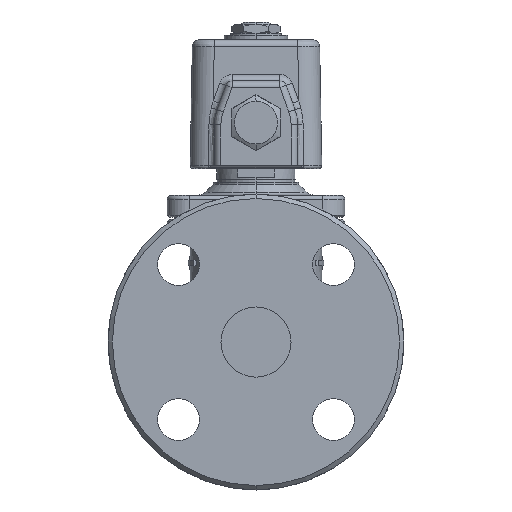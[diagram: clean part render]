
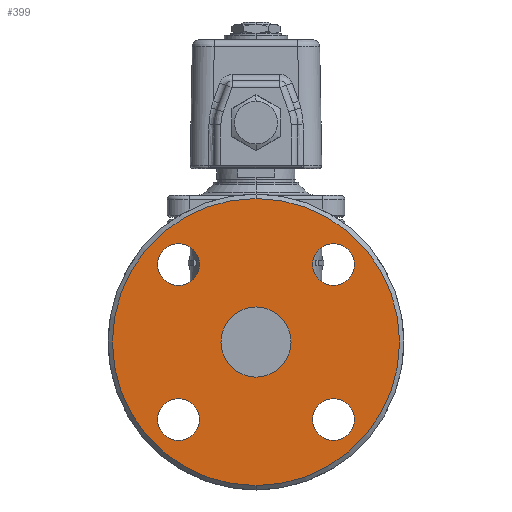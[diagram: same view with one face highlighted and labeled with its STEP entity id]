
A CAD part, left-side view. The second image highlights one B-rep face of the part: STEP entity #399.
In plain terms, the highlighted planar face has unit normal (-1, 0, 0).
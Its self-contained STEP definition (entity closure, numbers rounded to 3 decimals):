
#399=ADVANCED_FACE('',(#2456,#2457,#2458,#2459,#2460,#2461),#2455,.F.);
#2455=PLANE('',#8688);
#2456=FACE_OUTER_BOUND('',#8689,.T.);
#2457=FACE_BOUND('',#8690,.T.);
#2458=FACE_BOUND('',#8691,.T.);
#2459=FACE_BOUND('',#8692,.T.);
#2460=FACE_BOUND('',#8693,.T.);
#2461=FACE_BOUND('',#8694,.T.);
#8685=CARTESIAN_POINT('',(-80.,-123.449,141.));
#8686=DIRECTION('',(1.,0.,0.));
#8687=DIRECTION('',(0.,0.,-1.));
#8688=AXIS2_PLACEMENT_3D('',#8685,#8686,#8687);
#8689=EDGE_LOOP('',(#12294,#12295));
#8690=EDGE_LOOP('',(#12296,#12297));
#8691=EDGE_LOOP('',(#12298,#12299));
#8692=EDGE_LOOP('',(#12300,#12301));
#8693=EDGE_LOOP('',(#12302,#12303));
#8694=EDGE_LOOP('',(#12304,#12305));
#12294=ORIENTED_EDGE('',*,*,#14032,.T.);
#12295=ORIENTED_EDGE('',*,*,#14033,.T.);
#12296=ORIENTED_EDGE('',*,*,#14034,.T.);
#12297=ORIENTED_EDGE('',*,*,#14035,.T.);
#12298=ORIENTED_EDGE('',*,*,#14036,.T.);
#12299=ORIENTED_EDGE('',*,*,#14037,.T.);
#12300=ORIENTED_EDGE('',*,*,#14038,.T.);
#12301=ORIENTED_EDGE('',*,*,#14039,.T.);
#12302=ORIENTED_EDGE('',*,*,#14040,.T.);
#12303=ORIENTED_EDGE('',*,*,#14041,.T.);
#12304=ORIENTED_EDGE('',*,*,#14042,.T.);
#12305=ORIENTED_EDGE('',*,*,#14043,.T.);
#14032=EDGE_CURVE('',#17914,#17915,#17916,.T.);
#14033=EDGE_CURVE('',#17915,#17914,#17922,.T.);
#14034=EDGE_CURVE('',#17928,#17929,#17930,.T.);
#14035=EDGE_CURVE('',#17929,#17928,#17936,.T.);
#14036=EDGE_CURVE('',#17942,#17943,#17944,.T.);
#14037=EDGE_CURVE('',#17943,#17942,#17950,.T.);
#14038=EDGE_CURVE('',#17956,#17957,#17958,.T.);
#14039=EDGE_CURVE('',#17957,#17956,#17964,.T.);
#14040=EDGE_CURVE('',#17970,#17971,#17972,.T.);
#14041=EDGE_CURVE('',#17971,#17970,#17978,.T.);
#14042=EDGE_CURVE('',#17984,#17985,#17986,.T.);
#14043=EDGE_CURVE('',#17985,#17984,#17992,.T.);
#17914=VERTEX_POINT('',#25260);
#17915=VERTEX_POINT('',#25261);
#17916=CIRCLE('',#25265,65.5);
#17922=CIRCLE('',#25269,65.5);
#17928=VERTEX_POINT('',#25270);
#17929=VERTEX_POINT('',#25271);
#17930=CIRCLE('',#25275,9.5);
#17936=CIRCLE('',#25279,9.5);
#17942=VERTEX_POINT('',#25280);
#17943=VERTEX_POINT('',#25281);
#17944=CIRCLE('',#25285,9.5);
#17950=CIRCLE('',#25289,9.5);
#17956=VERTEX_POINT('',#25290);
#17957=VERTEX_POINT('',#25291);
#17958=CIRCLE('',#25295,9.5);
#17964=CIRCLE('',#25299,9.5);
#17970=VERTEX_POINT('',#25300);
#17971=VERTEX_POINT('',#25301);
#17972=CIRCLE('',#25305,9.5);
#17978=CIRCLE('',#25309,9.5);
#17984=VERTEX_POINT('',#25310);
#17985=VERTEX_POINT('',#25311);
#17986=CIRCLE('',#25315,16.);
#17992=CIRCLE('',#25319,16.);
#25260=CARTESIAN_POINT('',(-80.,0.,-65.5));
#25261=CARTESIAN_POINT('',(-80.,0.,65.5));
#25262=CARTESIAN_POINT('',(-80.,0.,0.));
#25263=DIRECTION('',(-1.,0.,0.));
#25264=DIRECTION('',(0.,0.,-1.));
#25265=AXIS2_PLACEMENT_3D('',#25262,#25263,#25264);
#25266=CARTESIAN_POINT('',(-80.,0.,0.));
#25267=DIRECTION('',(-1.,0.,0.));
#25268=DIRECTION('',(0.,0.,-1.));
#25269=AXIS2_PLACEMENT_3D('',#25266,#25267,#25268);
#25270=CARTESIAN_POINT('',(-80.,-35.355,-25.855));
#25271=CARTESIAN_POINT('',(-80.,-35.355,-44.855));
#25272=CARTESIAN_POINT('',(-80.,-35.355,-35.355));
#25273=DIRECTION('',(1.,0.,0.));
#25274=DIRECTION('',(0.,0.,1.));
#25275=AXIS2_PLACEMENT_3D('',#25272,#25273,#25274);
#25276=CARTESIAN_POINT('',(-80.,-35.355,-35.355));
#25277=DIRECTION('',(1.,0.,0.));
#25278=DIRECTION('',(0.,0.,1.));
#25279=AXIS2_PLACEMENT_3D('',#25276,#25277,#25278);
#25280=CARTESIAN_POINT('',(-80.,35.355,44.855));
#25281=CARTESIAN_POINT('',(-80.,35.355,25.855));
#25282=CARTESIAN_POINT('',(-80.,35.355,35.355));
#25283=DIRECTION('',(1.,0.,0.));
#25284=DIRECTION('',(0.,0.,1.));
#25285=AXIS2_PLACEMENT_3D('',#25282,#25283,#25284);
#25286=CARTESIAN_POINT('',(-80.,35.355,35.355));
#25287=DIRECTION('',(1.,0.,0.));
#25288=DIRECTION('',(0.,0.,1.));
#25289=AXIS2_PLACEMENT_3D('',#25286,#25287,#25288);
#25290=CARTESIAN_POINT('',(-80.,-35.355,44.855));
#25291=CARTESIAN_POINT('',(-80.,-35.355,25.855));
#25292=CARTESIAN_POINT('',(-80.,-35.355,35.355));
#25293=DIRECTION('',(1.,0.,0.));
#25294=DIRECTION('',(0.,0.,1.));
#25295=AXIS2_PLACEMENT_3D('',#25292,#25293,#25294);
#25296=CARTESIAN_POINT('',(-80.,-35.355,35.355));
#25297=DIRECTION('',(1.,0.,0.));
#25298=DIRECTION('',(0.,0.,1.));
#25299=AXIS2_PLACEMENT_3D('',#25296,#25297,#25298);
#25300=CARTESIAN_POINT('',(-80.,35.355,-25.855));
#25301=CARTESIAN_POINT('',(-80.,35.355,-44.855));
#25302=CARTESIAN_POINT('',(-80.,35.355,-35.355));
#25303=DIRECTION('',(1.,0.,0.));
#25304=DIRECTION('',(0.,0.,1.));
#25305=AXIS2_PLACEMENT_3D('',#25302,#25303,#25304);
#25306=CARTESIAN_POINT('',(-80.,35.355,-35.355));
#25307=DIRECTION('',(1.,0.,0.));
#25308=DIRECTION('',(0.,0.,1.));
#25309=AXIS2_PLACEMENT_3D('',#25306,#25307,#25308);
#25310=CARTESIAN_POINT('',(-80.,0.,16.));
#25311=CARTESIAN_POINT('',(-80.,0.,-16.));
#25312=CARTESIAN_POINT('',(-80.,0.,0.));
#25313=DIRECTION('',(1.,0.,0.));
#25314=DIRECTION('',(0.,0.,1.));
#25315=AXIS2_PLACEMENT_3D('',#25312,#25313,#25314);
#25316=CARTESIAN_POINT('',(-80.,0.,0.));
#25317=DIRECTION('',(1.,0.,0.));
#25318=DIRECTION('',(0.,0.,1.));
#25319=AXIS2_PLACEMENT_3D('',#25316,#25317,#25318);
